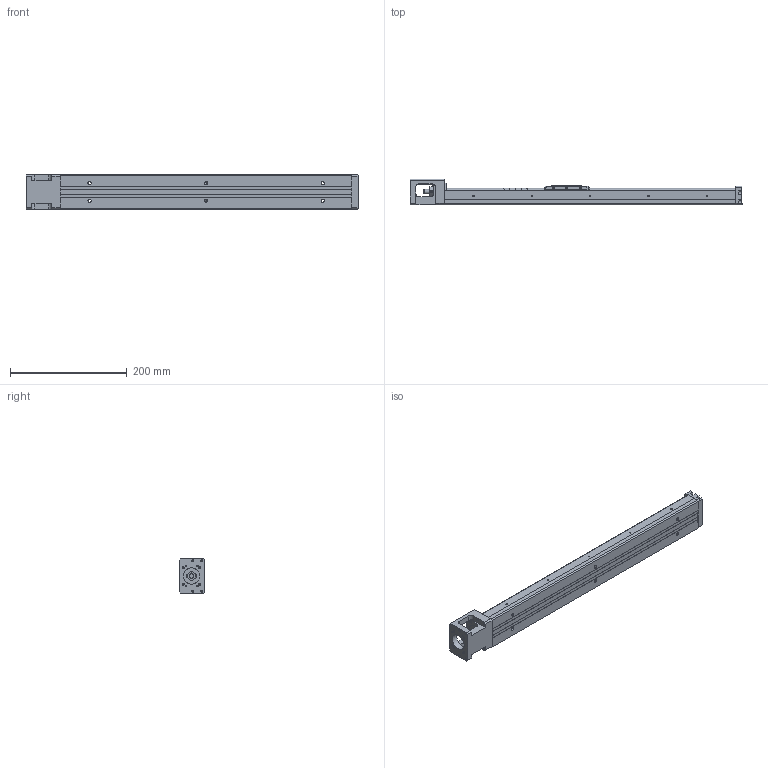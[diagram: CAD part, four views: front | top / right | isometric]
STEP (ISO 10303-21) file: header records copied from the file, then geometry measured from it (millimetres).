
FILE_DESCRIPTION(/* description */ (''),/* implementation_level */ '2;1');
FILE_NAME(/* name */ 'KP33N-500C02-D.stp',/* time_stamp */ '2020-07-01T11:45:40+08:00',/* author */ (''),/* organization */ (''),/* preprocessor_version */ 'ST-DEVELOPER v14',/* originating_system */ 'SIEMENS PLM Software NX 8.0',/* authorisation */ '');
FILE_SCHEMA (('AUTOMOTIVE_DESIGN { 1 0 10303 214 3 1 1 1 }'));
Length unit declared in the file: millimetre
Products named in the file (1): model1
Bounding box: 569.5 x 44.45 x 60 mm (x, y, z)
Volume: 607684.3 mm3; surface area: 169246.1 mm2
Topology: 5 solids, 14 shells, 640 faces, 1618 edges, 1066 vertices
Faces by surface type: plane 376, cylinder 181, bspline 31, cone 22, extrusion 21, torus 7, sphere 2
Full cylindrical faces by diameter (mm): 1.6 x5, 1.65 x4, 2.15 x5, 2.42 x4, 2.45 x2, 2.5 x12, 3 x3, 3.2 x4, 3.3 x4, 3.4 x3, 3.5 x10, 3.969 x1, 4 x6, 4.001 x1, 4.135 x4, 5.5 x6, 6 x4, 7.6 x1, 8 x5, 9.5 x6, 10.72 x3, 11.8 x2, 12 x6, 12.8 x1, 13 x2, 14 x1, 16 x4, 21.5 x1, 28 x1
Entity records: 29730 total; most frequent: CARTESIAN_POINT 15175, DIRECTION 2919, ORIENTED_EDGE 2816, EDGE_CURVE 1408, AXIS2_PLACEMENT_3D 1034, VERTEX_POINT 996, EDGE_LOOP 900, VECTOR 851
